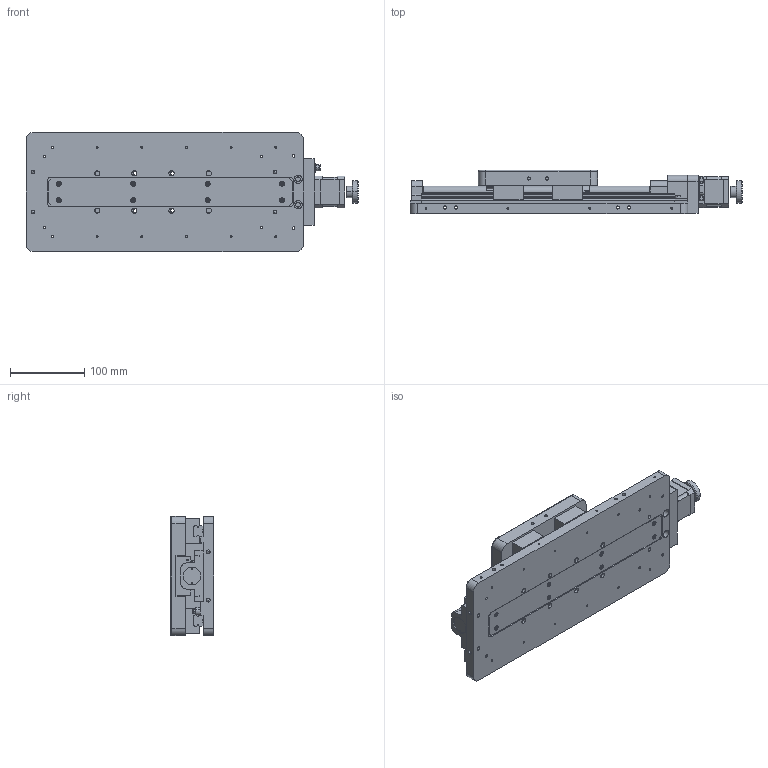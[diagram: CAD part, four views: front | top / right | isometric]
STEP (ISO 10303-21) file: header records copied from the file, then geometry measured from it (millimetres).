
FILE_DESCRIPTION (( 'STEP AP203' ), '1' );
FILE_NAME ('7STA03150Bµç¶¯Æ½ÒÆÌ¨.STEP', '2022-07-07T08:34:43', ( '' ), ( '' ), 'SwSTEP 2.0', 'SolidWorks 2018', '' );
FILE_SCHEMA (( 'CONFIG_CONTROL_DESIGN' ));
Products named in the file (1): 7STA03150B萇雄す痄怢
Bounding box: 446 x 58 x 160 mm (x, y, z)
Surface area: 332421 mm2 (no closed solid volume)
Topology: 0 solids, 109 shells, 1292 faces, 4479 edges, 3179 vertices
Faces by surface type: plane 635, cylinder 485, torus 82, cone 58, sphere 32
Entity records: 48715 total; most frequent: CARTESIAN_POINT 9954, DIRECTION 8494, ORIENTED_EDGE 6875, EDGE_CURVE 4387, VERTEX_POINT 3139, AXIS2_PLACEMENT_3D 3001, LINE 2492, VECTOR 2492
